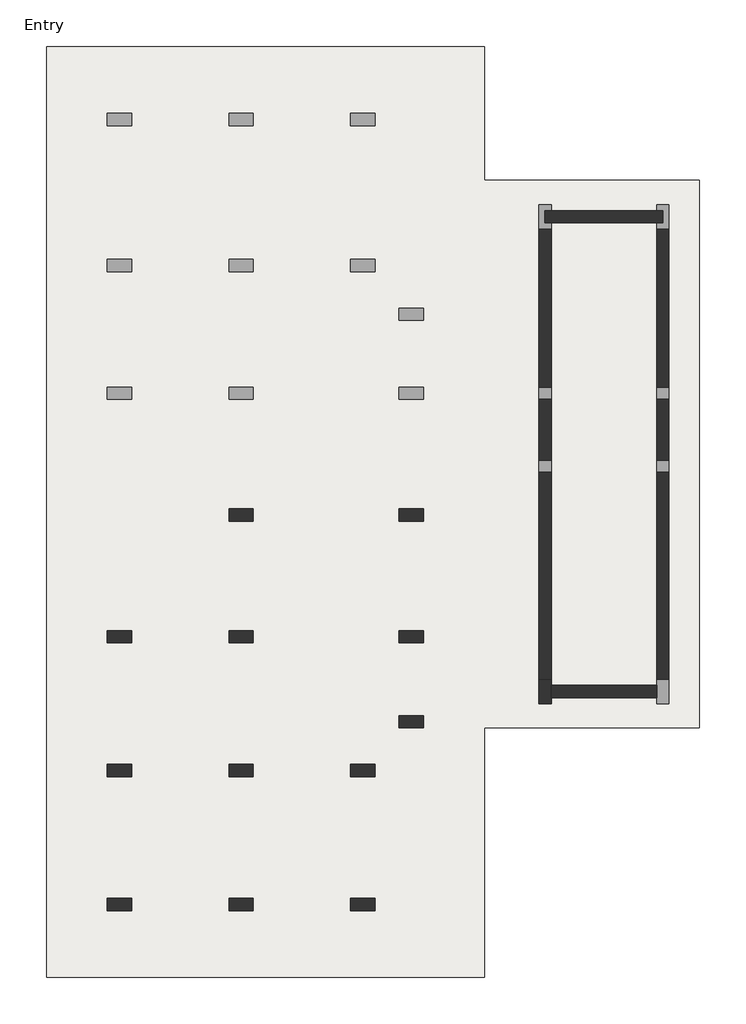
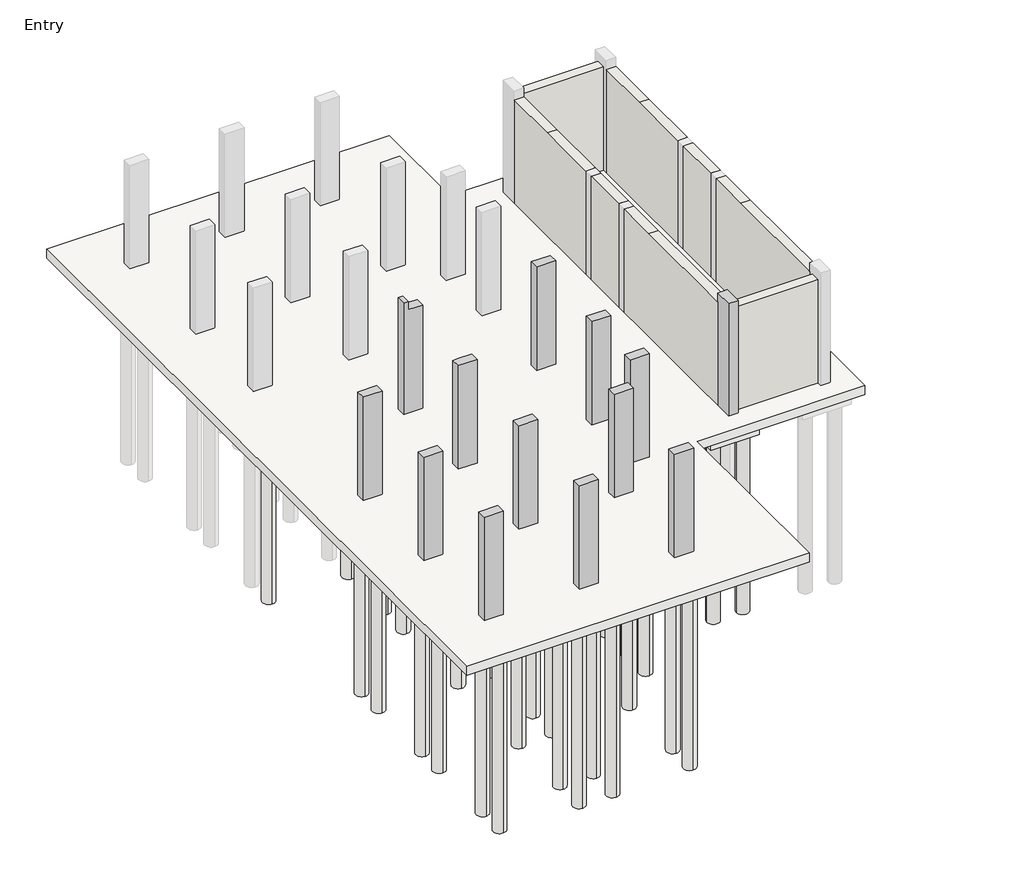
# One storey, part 1 of 2: 51 slabs, 13 columns, 8 walls.
"""IFC4 building model written with IfcOpenShell, lengths in millimetres."""

from ifc_helpers import new_model, si_unit, point, frame, frame_2d, origin, origin_with_axes, place, context, project, spatial, polyline, circle_curve, trimmed, segment, composite_curve, outline, extrude, faceted_brep, element, save

model = new_model("IFC4")

# Units and contexts
model_context = context("Model", 3, world=origin())
ifc_project = project(units=[si_unit("LENGTHUNIT", "METRE", prefix="MILLI")], contexts=[model_context])

# Site, building, storey
site = spatial("IfcSite", under=ifc_project)
building = spatial("IfcBuilding", under=site)
storey = spatial("IfcBuildingStorey", under=building, Name="Entry", Elevation=0.0)

# Columns
placement = place(None, origin())
element("IfcColumn", 1, ObjectType="Concrete-Rectangular-Column : 12 x 24", at=placement, inside=storey, context=model_context, shape_type="SweptSolid", body=[
    extrude(outline(polyline([(0.0, -25837.8572388), (0.0, -25228.2572388), (3505.2, -25228.2572388), (3505.2, -25685.4572388), (3784.6, -25685.4572388), (3784.6, -25837.8572388), (0.0, -25837.8572388)])), frame((0.0, 12810.8740068, 0.0), z_axis=(0.0, 1.0, 0.0), x_axis=(0.0, 0.0, 1.0)), (0.0, 0.0, 1.0), 304.8),
])
element("IfcColumn", 2, ObjectType="Concrete-Rectangular-Column : 12 x 24", at=placement, inside=storey, context=model_context, shape_type="SweptSolid", body=[
    extrude(outline(polyline([(-21570.6572388, 13115.6740068), (-20961.0572388, 13115.6740068), (-20961.0572388, 12810.8740068), (-21570.6572388, 12810.8740068), (-21570.6572388, 13115.6740068)])), origin_with_axes(), (0.0, 0.0, 1.0), 3505.2),
])
element("IfcColumn", 3, ObjectType="Concrete-Rectangular-Column : 12 x 24", at=placement, inside=storey, context=model_context, shape_type="SweptSolid", body=[
    extrude(outline(polyline([(-28885.8572388, 10067.6740068), (-28276.2572388, 10067.6740068), (-28276.2572388, 9762.8740068), (-28885.8572388, 9762.8740068), (-28885.8572388, 10067.6740068)])), origin_with_axes(), (0.0, 0.0, 1.0), 3505.2),
])
element("IfcColumn", 4, ObjectType="Concrete-Rectangular-Column : 12 x 24", at=placement, inside=storey, context=model_context, shape_type="Brep", body=[
    faceted_brep([(-25837.8572388, 10067.6740068, 0.0), (-25228.2572388, 10067.6740068, 0.0), (-25228.2572388, 9762.8740068, 0.0), (-25837.8572388, 9762.8740068, 0.0), (-25837.8572388, 10067.6740068, 3505.2), (-25685.4572388, 10067.6740068, 3505.2), (-25228.2572388, 10067.6740068, 3505.2), (-25228.2572388, 9762.8740068, 3505.2), (-25837.8572388, 9762.8740068, 3505.2)], [[[0, 1, 2, 3]], [[1, 0, 4, 5, 6]], [[2, 1, 6, 7]], [[3, 2, 7, 8]], [[0, 3, 8, 4]], [[6, 5, 4, 8, 7]]]),
])
element("IfcColumn", 5, ObjectType="Concrete-Rectangular-Column : 12 x 24", at=placement, inside=storey, context=model_context, shape_type="SweptSolid", body=[
    extrude(outline(polyline([(-21570.6572388, 10067.6740068), (-20961.0572388, 10067.6740068), (-20961.0572388, 9762.8740068), (-21570.6572388, 9762.8740068), (-21570.6572388, 10067.6740068)])), origin_with_axes(), (0.0, 0.0, 1.0), 3505.2),
])
element("IfcColumn", 6, ObjectType="Concrete-Rectangular-Column : 12 x 24", at=placement, inside=storey, context=model_context, shape_type="SweptSolid", body=[
    extrude(outline(polyline([(-21570.6572388, 7934.0740068), (-20961.0572388, 7934.0740068), (-20961.0572388, 7629.2740068), (-21570.6572388, 7629.2740068), (-21570.6572388, 7934.0740068)])), origin_with_axes(), (0.0, 0.0, 1.0), 3505.2),
])
element("IfcColumn", 7, ObjectType="Concrete-Rectangular-Column : 12 x 24", at=placement, inside=storey, context=model_context, shape_type="SweptSolid", body=[
    extrude(outline(polyline([(-28885.8572388, 6714.8740068), (-28276.2572388, 6714.8740068), (-28276.2572388, 6410.0740068), (-28885.8572388, 6410.0740068), (-28885.8572388, 6714.8740068)])), origin_with_axes(), (0.0, 0.0, 1.0), 3505.2),
])
element("IfcColumn", 8, ObjectType="Concrete-Rectangular-Column : 12 x 24", at=placement, inside=storey, context=model_context, shape_type="SweptSolid", body=[
    extrude(outline(polyline([(-25837.8572388, 6714.8740068), (-25228.2572388, 6714.8740068), (-25228.2572388, 6410.0740068), (-25837.8572388, 6410.0740068), (-25837.8572388, 6714.8740068)])), origin_with_axes(), (0.0, 0.0, 1.0), 3505.2),
])
element("IfcColumn", 9, ObjectType="Concrete-Rectangular-Column : 12 x 24", at=placement, inside=storey, context=model_context, shape_type="SweptSolid", body=[
    extrude(outline(polyline([(-22789.8572388, 6714.8740068), (-22180.2572388, 6714.8740068), (-22180.2572388, 6410.0740068), (-22789.8572388, 6410.0740068), (-22789.8572388, 6714.8740068)])), origin_with_axes(), (0.0, 0.0, 1.0), 3505.2),
])
element("IfcColumn", 10, ObjectType="Concrete-Rectangular-Column : 12 x 24", at=placement, inside=storey, context=model_context, shape_type="SweptSolid", body=[
    extrude(outline(polyline([(-28885.8572388, 3362.0740068), (-28276.2572388, 3362.0740068), (-28276.2572388, 3057.2740068), (-28885.8572388, 3057.2740068), (-28885.8572388, 3362.0740068)])), origin_with_axes(), (0.0, 0.0, 1.0), 3505.2),
])
element("IfcColumn", 11, ObjectType="Concrete-Rectangular-Column : 12 x 24", at=placement, inside=storey, context=model_context, shape_type="SweptSolid", body=[
    extrude(outline(polyline([(-25837.8572388, 3362.0740068), (-25228.2572388, 3362.0740068), (-25228.2572388, 3057.2740068), (-25837.8572388, 3057.2740068), (-25837.8572388, 3362.0740068)])), origin_with_axes(), (0.0, 0.0, 1.0), 3505.2),
])
element("IfcColumn", 12, ObjectType="Concrete-Rectangular-Column : 12 x 24", at=placement, inside=storey, context=model_context, shape_type="SweptSolid", body=[
    extrude(outline(polyline([(-22789.8572388, 3362.0740068), (-22180.2572388, 3362.0740068), (-22180.2572388, 3057.2740068), (-22789.8572388, 3057.2740068), (-22789.8572388, 3362.0740068)])), origin_with_axes(), (0.0, 0.0, 1.0), 3505.2),
])
element("IfcColumn", 13, ObjectType="Concrete-Rectangular-Column : 12 x 24", at=placement, inside=storey, context=model_context, shape_type="Brep", body=[
    faceted_brep([(-18065.4572388, 8238.8740068, 0.0), (-18065.4572388, 8848.4740068, 0.0), (-17760.6572388, 8848.4740068, 0.0), (-17760.6572388, 8696.0740068, 0.0), (-17760.6572388, 8391.2740068, 0.0), (-17760.6572388, 8238.8740068, 0.0), (-18065.4572388, 8238.8740068, 3810.0), (-18065.4572388, 8848.4740068, 3810.0), (-18065.4572388, 8848.4740068, 3505.2), (-17760.6572388, 8848.4740068, 3810.0), (-17760.6572388, 8848.4740068, 3505.2), (-17760.6572388, 8238.8740068, 3810.0)], [[[0, 1, 2, 3, 4, 5]], [[6, 7, 8, 1, 0]], [[7, 9, 10, 2, 1, 8]], [[9, 11, 5, 4, 3, 2, 10]], [[11, 6, 0, 5]], [[6, 11, 9, 7]]]),
])

# Slabs
element("IfcSlab", 14, ObjectType="12\" Foundation Slab", at=placement, inside=storey, context=model_context, shape_type="SweptSolid", body=[
    extrude(outline(polyline([(-19437.0572388, 24698.0740068), (-19437.0572388, 21345.2740068), (-14052.2572388, 21345.2740068), (-14052.2572388, 7629.2740068), (-19437.0572388, 7629.2740068), (-19437.0572388, 1380.8740068), (-30409.8572388, 1380.8740068), (-30409.8572388, 24698.0740068), (-19437.0572388, 24698.0740068)])), frame((0.0, 0.0, -304.8), z_axis=(0.0, 0.0, 1.0), x_axis=(1.0, 0.0, 0.0)), (0.0, 0.0, 1.0), 304.8),
])
element("IfcSlab", 15, ObjectType="Pile Cap-2 Pile : 31\"x61\"x35\"", at=placement, inside=storey, context=model_context, shape_type="SweptSolid", body=[
    extrude(outline(polyline([(-28987.4572388, 10689.9740068), (-28174.6572388, 10689.9740068), (-28174.6572388, 9140.5740068), (-28987.4572388, 9140.5740068), (-28987.4572388, 10689.9740068)])), frame((0.0, 0.0, -889.0), z_axis=(0.0, 0.0, 1.0), x_axis=(1.0, 0.0, 0.0)), (0.0, 0.0, 1.0), 584.2),
])
element("IfcSlab", 16, ObjectType="Pile Cap-2 Pile : 31\"x61\"x35\"", at=placement, inside=storey, context=model_context, shape_type="SweptSolid", body=[
    extrude(outline(polyline([(-28987.4572388, 7337.1740068), (-28174.6572388, 7337.1740068), (-28174.6572388, 5787.7740068), (-28987.4572388, 5787.7740068), (-28987.4572388, 7337.1740068)])), frame((0.0, 0.0, -889.0), z_axis=(0.0, 0.0, 1.0), x_axis=(1.0, 0.0, 0.0)), (0.0, 0.0, 1.0), 584.2),
])
element("IfcSlab", 17, ObjectType="Pile Cap-2 Pile : 31\"x61\"x35\"", at=placement, inside=storey, context=model_context, shape_type="SweptSolid", body=[
    extrude(outline(polyline([(-28987.4572388, 3984.3740068), (-28174.6572388, 3984.3740068), (-28174.6572388, 2434.9740068), (-28987.4572388, 2434.9740068), (-28987.4572388, 3984.3740068)])), frame((0.0, 0.0, -889.0), z_axis=(0.0, 0.0, 1.0), x_axis=(1.0, 0.0, 0.0)), (0.0, 0.0, 1.0), 584.2),
])
element("IfcSlab", 18, ObjectType="Pile Cap-2 Pile : 31\"x61\"x35\"", at=placement, inside=storey, context=model_context, shape_type="SweptSolid", body=[
    extrude(outline(polyline([(-22891.4572388, 3984.3740068), (-22078.6572388, 3984.3740068), (-22078.6572388, 2434.9740068), (-22891.4572388, 2434.9740068), (-22891.4572388, 3984.3740068)])), frame((0.0, 0.0, -889.0), z_axis=(0.0, 0.0, 1.0), x_axis=(1.0, 0.0, 0.0)), (0.0, 0.0, 1.0), 584.2),
])
element("IfcSlab", 19, ObjectType="Pile Cap-2 Pile : 31\"x61\"x35\"", at=placement, inside=storey, context=model_context, shape_type="SweptSolid", body=[
    extrude(outline(polyline([(-22891.4572388, 7337.1740068), (-22078.6572388, 7337.1740068), (-22078.6572388, 5787.7740068), (-22891.4572388, 5787.7740068), (-22891.4572388, 7337.1740068)])), frame((0.0, 0.0, -889.0), z_axis=(0.0, 0.0, 1.0), x_axis=(1.0, 0.0, 0.0)), (0.0, 0.0, 1.0), 584.2),
])
element("IfcSlab", 20, ObjectType="Pile Cap-2 Pile : 31\"x61\"x35\"", at=placement, inside=storey, context=model_context, shape_type="SweptSolid", body=[
    extrude(outline(polyline([(-21672.2572388, 10689.9740068), (-20859.4572388, 10689.9740068), (-20859.4572388, 9140.5740068), (-21672.2572388, 9140.5740068), (-21672.2572388, 10689.9740068)])), frame((0.0, 0.0, -889.0), z_axis=(0.0, 0.0, 1.0), x_axis=(1.0, 0.0, 0.0)), (0.0, 0.0, 1.0), 584.2),
])
element("IfcSlab", 21, ObjectType="Pile Cap-2 Pile : 31\"x61\"x35\"", at=placement, inside=storey, context=model_context, shape_type="SweptSolid", body=[
    extrude(outline(polyline([(-21672.2572388, 13737.9740068), (-20859.4572388, 13737.9740068), (-20859.4572388, 12188.5740068), (-21672.2572388, 12188.5740068), (-21672.2572388, 13737.9740068)])), frame((0.0, 0.0, -889.0), z_axis=(0.0, 0.0, 1.0), x_axis=(1.0, 0.0, 0.0)), (0.0, 0.0, 1.0), 584.2),
])
element("IfcSlab", 22, ObjectType="Pile Cap-2 Pile : 31\"x61\"x35\"", at=placement, inside=storey, context=model_context, shape_type="SweptSolid", body=[
    extrude(outline(polyline([(-17138.3572388, 8950.0740068), (-17138.3572388, 8137.2740068), (-18687.7572388, 8137.2740068), (-18687.7572388, 8950.0740068), (-17138.3572388, 8950.0740068)])), frame((0.0, 0.0, -889.0), z_axis=(0.0, 0.0, 1.0), x_axis=(1.0, 0.0, 0.0)), (0.0, 0.0, 1.0), 584.2),
])
element("IfcSlab", 23, ObjectType="Pile Cap-2 Pile : 31\"x61\"x35\"", at=placement, inside=storey, context=model_context, shape_type="SweptSolid", body=[
    extrude(outline(polyline([(-21672.2572388, 8556.3740068), (-20859.4572388, 8556.3740068), (-20859.4572388, 7006.9740068), (-21672.2572388, 7006.9740068), (-21672.2572388, 8556.3740068)])), frame((0.0, 0.0, -889.0), z_axis=(0.0, 0.0, 1.0), x_axis=(1.0, 0.0, 0.0)), (0.0, 0.0, 1.0), 584.2),
])
element("IfcSlab", 24, ObjectType="Pile Cap-4 Pile : 72\" x 72\" x35\"", at=placement, inside=storey, context=model_context, shape_type="SweptSolid", body=[
    extrude(outline(polyline([(-26447.4572388, 13877.6740068), (-24618.6572388, 13877.6740068), (-24618.6572388, 12048.8740068), (-26447.4572388, 12048.8740068), (-26447.4572388, 13877.6740068)])), frame((0.0, 0.0, -889.0), z_axis=(0.0, 0.0, 1.0), x_axis=(1.0, 0.0, 0.0)), (0.0, 0.0, 1.0), 584.2),
])
element("IfcSlab", 25, ObjectType="Pile Cap-4 Pile : 72\" x 72\" x35\"", at=placement, inside=storey, context=model_context, shape_type="SweptSolid", body=[
    extrude(outline(polyline([(-26447.4572388, 10829.6740068), (-24618.6572388, 10829.6740068), (-24618.6572388, 9000.8740068), (-26447.4572388, 9000.8740068), (-26447.4572388, 10829.6740068)])), frame((0.0, 0.0, -889.0), z_axis=(0.0, 0.0, 1.0), x_axis=(1.0, 0.0, 0.0)), (0.0, 0.0, 1.0), 584.2),
])
element("IfcSlab", 26, ObjectType="Pile Cap-4 Pile : 72\" x 72\" x35\"", at=placement, inside=storey, context=model_context, shape_type="SweptSolid", body=[
    extrude(outline(polyline([(-26447.4572388, 7476.8740068), (-24618.6572388, 7476.8740068), (-24618.6572388, 5648.0740068), (-26447.4572388, 5648.0740068), (-26447.4572388, 7476.8740068)])), frame((0.0, 0.0, -889.0), z_axis=(0.0, 0.0, 1.0), x_axis=(1.0, 0.0, 0.0)), (0.0, 0.0, 1.0), 584.2),
])
element("IfcSlab", 27, ObjectType="Pile Cap-4 Pile : 72\" x 72\" x35\"", at=placement, inside=storey, context=model_context, shape_type="SweptSolid", body=[
    extrude(outline(polyline([(-26447.4572388, 4124.0740068), (-24618.6572388, 4124.0740068), (-24618.6572388, 2295.2740068), (-26447.4572388, 2295.2740068), (-26447.4572388, 4124.0740068)])), frame((0.0, 0.0, -889.0), z_axis=(0.0, 0.0, 1.0), x_axis=(1.0, 0.0, 0.0)), (0.0, 0.0, 1.0), 584.2),
])
element("IfcSlab", 28, ObjectType="Pile-Steel Pipe : 16\" Diameter", at=placement, inside=storey, context=model_context, shape_type="SweptSolid", body=[
    extrude(outline(composite_curve([segment(trimmed(circle_curve(frame_2d((-26066.4572388, 15477.8740068)), 203.2), [point((-26066.4572388, 15274.6740068))], [point((-26066.4572388, 15681.0740068))], False, "CARTESIAN"), True, "CONTINUOUS"), segment(trimmed(circle_curve(frame_2d((-26066.4572388, 15477.8740068)), 203.2), [point((-26066.4572388, 15681.0740068))], [point((-26066.4572388, 15274.6740068))], False, "CARTESIAN"), True, "CONTINUOUS")], self_intersect=False)), frame((0.0, 0.0, -6985.0), z_axis=(0.0, 0.0, 1.0), x_axis=(1.0, 0.0, 0.0)), (0.0, 0.0, 1.0), 6096.0),
])
element("IfcSlab", 29, ObjectType="Pile-Steel Pipe : 16\" Diameter", at=placement, inside=storey, context=model_context, shape_type="SweptSolid", body=[
    extrude(outline(composite_curve([segment(trimmed(circle_curve(frame_2d((-24999.6572388, 15477.8740068)), 203.2), [point((-24999.6572388, 15274.6740068))], [point((-24999.6572388, 15681.0740068))], False, "CARTESIAN"), True, "CONTINUOUS"), segment(trimmed(circle_curve(frame_2d((-24999.6572388, 15477.8740068)), 203.2), [point((-24999.6572388, 15681.0740068))], [point((-24999.6572388, 15274.6740068))], False, "CARTESIAN"), True, "CONTINUOUS")], self_intersect=False)), frame((0.0, 0.0, -6985.0), z_axis=(0.0, 0.0, 1.0), x_axis=(1.0, 0.0, 0.0)), (0.0, 0.0, 1.0), 6096.0),
])
element("IfcSlab", 30, ObjectType="Pile-Steel Pipe : 16\" Diameter", at=placement, inside=storey, context=model_context, shape_type="SweptSolid", body=[
    extrude(outline(composite_curve([segment(trimmed(circle_curve(frame_2d((-26066.4572388, 12429.8740068)), 203.2), [point((-26066.4572388, 12226.6740068))], [point((-26066.4572388, 12633.0740068))], False, "CARTESIAN"), True, "CONTINUOUS"), segment(trimmed(circle_curve(frame_2d((-26066.4572388, 12429.8740068)), 203.2), [point((-26066.4572388, 12633.0740068))], [point((-26066.4572388, 12226.6740068))], False, "CARTESIAN"), True, "CONTINUOUS")], self_intersect=False)), frame((0.0, 0.0, -6985.0), z_axis=(0.0, 0.0, 1.0), x_axis=(1.0, 0.0, 0.0)), (0.0, 0.0, 1.0), 6096.0),
])
element("IfcSlab", 31, ObjectType="Pile-Steel Pipe : 16\" Diameter", at=placement, inside=storey, context=model_context, shape_type="SweptSolid", body=[
    extrude(outline(composite_curve([segment(trimmed(circle_curve(frame_2d((-24999.6572388, 12429.8740068)), 203.2), [point((-24999.6572388, 12226.6740068))], [point((-24999.6572388, 12633.0740068))], False, "CARTESIAN"), True, "CONTINUOUS"), segment(trimmed(circle_curve(frame_2d((-24999.6572388, 12429.8740068)), 203.2), [point((-24999.6572388, 12633.0740068))], [point((-24999.6572388, 12226.6740068))], False, "CARTESIAN"), True, "CONTINUOUS")], self_intersect=False)), frame((0.0, 0.0, -6985.0), z_axis=(0.0, 0.0, 1.0), x_axis=(1.0, 0.0, 0.0)), (0.0, 0.0, 1.0), 6096.0),
])
element("IfcSlab", 32, ObjectType="Pile-Steel Pipe : 16\" Diameter", at=placement, inside=storey, context=model_context, shape_type="SweptSolid", body=[
    extrude(outline(composite_curve([segment(trimmed(circle_curve(frame_2d((-24999.6572388, 13496.6740068)), 203.2), [point((-24999.6572388, 13293.4740068))], [point((-24999.6572388, 13699.8740068))], False, "CARTESIAN"), True, "CONTINUOUS"), segment(trimmed(circle_curve(frame_2d((-24999.6572388, 13496.6740068)), 203.2), [point((-24999.6572388, 13699.8740068))], [point((-24999.6572388, 13293.4740068))], False, "CARTESIAN"), True, "CONTINUOUS")], self_intersect=False)), frame((0.0, 0.0, -6985.0), z_axis=(0.0, 0.0, 1.0), x_axis=(1.0, 0.0, 0.0)), (0.0, 0.0, 1.0), 6096.0),
])
element("IfcSlab", 33, ObjectType="Pile-Steel Pipe : 16\" Diameter", at=placement, inside=storey, context=model_context, shape_type="SweptSolid", body=[
    extrude(outline(composite_curve([segment(trimmed(circle_curve(frame_2d((-26066.4572388, 13496.6740068)), 203.2), [point((-26066.4572388, 13293.4740068))], [point((-26066.4572388, 13699.8740068))], False, "CARTESIAN"), True, "CONTINUOUS"), segment(trimmed(circle_curve(frame_2d((-26066.4572388, 13496.6740068)), 203.2), [point((-26066.4572388, 13699.8740068))], [point((-26066.4572388, 13293.4740068))], False, "CARTESIAN"), True, "CONTINUOUS")], self_intersect=False)), frame((0.0, 0.0, -6985.0), z_axis=(0.0, 0.0, 1.0), x_axis=(1.0, 0.0, 0.0)), (0.0, 0.0, 1.0), 6096.0),
])
element("IfcSlab", 34, ObjectType="Pile-Steel Pipe : 16\" Diameter", at=placement, inside=storey, context=model_context, shape_type="SweptSolid", body=[
    extrude(outline(composite_curve([segment(trimmed(circle_curve(frame_2d((-26066.4572388, 9381.8740068)), 203.2), [point((-26066.4572388, 9178.6740068))], [point((-26066.4572388, 9585.0740068))], False, "CARTESIAN"), True, "CONTINUOUS"), segment(trimmed(circle_curve(frame_2d((-26066.4572388, 9381.8740068)), 203.2), [point((-26066.4572388, 9585.0740068))], [point((-26066.4572388, 9178.6740068))], False, "CARTESIAN"), True, "CONTINUOUS")], self_intersect=False)), frame((0.0, 0.0, -6985.0), z_axis=(0.0, 0.0, 1.0), x_axis=(1.0, 0.0, 0.0)), (0.0, 0.0, 1.0), 6096.0),
])
element("IfcSlab", 35, ObjectType="Pile-Steel Pipe : 16\" Diameter", at=placement, inside=storey, context=model_context, shape_type="SweptSolid", body=[
    extrude(outline(composite_curve([segment(trimmed(circle_curve(frame_2d((-24999.6572388, 9381.8740068)), 203.2), [point((-24999.6572388, 9178.6740068))], [point((-24999.6572388, 9585.0740068))], False, "CARTESIAN"), True, "CONTINUOUS"), segment(trimmed(circle_curve(frame_2d((-24999.6572388, 9381.8740068)), 203.2), [point((-24999.6572388, 9585.0740068))], [point((-24999.6572388, 9178.6740068))], False, "CARTESIAN"), True, "CONTINUOUS")], self_intersect=False)), frame((0.0, 0.0, -6985.0), z_axis=(0.0, 0.0, 1.0), x_axis=(1.0, 0.0, 0.0)), (0.0, 0.0, 1.0), 6096.0),
])
element("IfcSlab", 36, ObjectType="Pile-Steel Pipe : 16\" Diameter", at=placement, inside=storey, context=model_context, shape_type="SweptSolid", body=[
    extrude(outline(composite_curve([segment(trimmed(circle_curve(frame_2d((-24999.6572388, 10448.6740068)), 203.2), [point((-24999.6572388, 10245.4740068))], [point((-24999.6572388, 10651.8740068))], False, "CARTESIAN"), True, "CONTINUOUS"), segment(trimmed(circle_curve(frame_2d((-24999.6572388, 10448.6740068)), 203.2), [point((-24999.6572388, 10651.8740068))], [point((-24999.6572388, 10245.4740068))], False, "CARTESIAN"), True, "CONTINUOUS")], self_intersect=False)), frame((0.0, 0.0, -6985.0), z_axis=(0.0, 0.0, 1.0), x_axis=(1.0, 0.0, 0.0)), (0.0, 0.0, 1.0), 6096.0),
])
element("IfcSlab", 37, ObjectType="Pile-Steel Pipe : 16\" Diameter", at=placement, inside=storey, context=model_context, shape_type="SweptSolid", body=[
    extrude(outline(composite_curve([segment(trimmed(circle_curve(frame_2d((-26066.4572388, 10448.6740068)), 203.2), [point((-26066.4572388, 10245.4740068))], [point((-26066.4572388, 10651.8740068))], False, "CARTESIAN"), True, "CONTINUOUS"), segment(trimmed(circle_curve(frame_2d((-26066.4572388, 10448.6740068)), 203.2), [point((-26066.4572388, 10651.8740068))], [point((-26066.4572388, 10245.4740068))], False, "CARTESIAN"), True, "CONTINUOUS")], self_intersect=False)), frame((0.0, 0.0, -6985.0), z_axis=(0.0, 0.0, 1.0), x_axis=(1.0, 0.0, 0.0)), (0.0, 0.0, 1.0), 6096.0),
])
element("IfcSlab", 38, ObjectType="Pile-Steel Pipe : 16\" Diameter", at=placement, inside=storey, context=model_context, shape_type="SweptSolid", body=[
    extrude(outline(composite_curve([segment(trimmed(circle_curve(frame_2d((-26066.4572388, 6029.0740068)), 203.2), [point((-26066.4572388, 5825.8740068))], [point((-26066.4572388, 6232.2740068))], False, "CARTESIAN"), True, "CONTINUOUS"), segment(trimmed(circle_curve(frame_2d((-26066.4572388, 6029.0740068)), 203.2), [point((-26066.4572388, 6232.2740068))], [point((-26066.4572388, 5825.8740068))], False, "CARTESIAN"), True, "CONTINUOUS")], self_intersect=False)), frame((0.0, 0.0, -6985.0), z_axis=(0.0, 0.0, 1.0), x_axis=(1.0, 0.0, 0.0)), (0.0, 0.0, 1.0), 6096.0),
])
element("IfcSlab", 39, ObjectType="Pile-Steel Pipe : 16\" Diameter", at=placement, inside=storey, context=model_context, shape_type="SweptSolid", body=[
    extrude(outline(composite_curve([segment(trimmed(circle_curve(frame_2d((-24999.6572388, 6029.0740068)), 203.2), [point((-24999.6572388, 5825.8740068))], [point((-24999.6572388, 6232.2740068))], False, "CARTESIAN"), True, "CONTINUOUS"), segment(trimmed(circle_curve(frame_2d((-24999.6572388, 6029.0740068)), 203.2), [point((-24999.6572388, 6232.2740068))], [point((-24999.6572388, 5825.8740068))], False, "CARTESIAN"), True, "CONTINUOUS")], self_intersect=False)), frame((0.0, 0.0, -6985.0), z_axis=(0.0, 0.0, 1.0), x_axis=(1.0, 0.0, 0.0)), (0.0, 0.0, 1.0), 6096.0),
])
element("IfcSlab", 40, ObjectType="Pile-Steel Pipe : 16\" Diameter", at=placement, inside=storey, context=model_context, shape_type="SweptSolid", body=[
    extrude(outline(composite_curve([segment(trimmed(circle_curve(frame_2d((-24999.6572388, 7095.8740068)), 203.2), [point((-24999.6572388, 6892.6740068))], [point((-24999.6572388, 7299.0740068))], False, "CARTESIAN"), True, "CONTINUOUS"), segment(trimmed(circle_curve(frame_2d((-24999.6572388, 7095.8740068)), 203.2), [point((-24999.6572388, 7299.0740068))], [point((-24999.6572388, 6892.6740068))], False, "CARTESIAN"), True, "CONTINUOUS")], self_intersect=False)), frame((0.0, 0.0, -6985.0), z_axis=(0.0, 0.0, 1.0), x_axis=(1.0, 0.0, 0.0)), (0.0, 0.0, 1.0), 6096.0),
])
element("IfcSlab", 41, ObjectType="Pile-Steel Pipe : 16\" Diameter", at=placement, inside=storey, context=model_context, shape_type="SweptSolid", body=[
    extrude(outline(composite_curve([segment(trimmed(circle_curve(frame_2d((-26066.4572388, 7095.8740068)), 203.2), [point((-26066.4572388, 6892.6740068))], [point((-26066.4572388, 7299.0740068))], False, "CARTESIAN"), True, "CONTINUOUS"), segment(trimmed(circle_curve(frame_2d((-26066.4572388, 7095.8740068)), 203.2), [point((-26066.4572388, 7299.0740068))], [point((-26066.4572388, 6892.6740068))], False, "CARTESIAN"), True, "CONTINUOUS")], self_intersect=False)), frame((0.0, 0.0, -6985.0), z_axis=(0.0, 0.0, 1.0), x_axis=(1.0, 0.0, 0.0)), (0.0, 0.0, 1.0), 6096.0),
])
element("IfcSlab", 42, ObjectType="Pile-Steel Pipe : 16\" Diameter", at=placement, inside=storey, context=model_context, shape_type="SweptSolid", body=[
    extrude(outline(composite_curve([segment(trimmed(circle_curve(frame_2d((-26066.4572388, 2676.2740068)), 203.2), [point((-26066.4572388, 2473.0740068))], [point((-26066.4572388, 2879.4740068))], False, "CARTESIAN"), True, "CONTINUOUS"), segment(trimmed(circle_curve(frame_2d((-26066.4572388, 2676.2740068)), 203.2), [point((-26066.4572388, 2879.4740068))], [point((-26066.4572388, 2473.0740068))], False, "CARTESIAN"), True, "CONTINUOUS")], self_intersect=False)), frame((0.0, 0.0, -6985.0), z_axis=(0.0, 0.0, 1.0), x_axis=(1.0, 0.0, 0.0)), (0.0, 0.0, 1.0), 6096.0),
])
element("IfcSlab", 43, ObjectType="Pile-Steel Pipe : 16\" Diameter", at=placement, inside=storey, context=model_context, shape_type="SweptSolid", body=[
    extrude(outline(composite_curve([segment(trimmed(circle_curve(frame_2d((-24999.6572388, 2676.2740068)), 203.2), [point((-24999.6572388, 2473.0740068))], [point((-24999.6572388, 2879.4740068))], False, "CARTESIAN"), True, "CONTINUOUS"), segment(trimmed(circle_curve(frame_2d((-24999.6572388, 2676.2740068)), 203.2), [point((-24999.6572388, 2879.4740068))], [point((-24999.6572388, 2473.0740068))], False, "CARTESIAN"), True, "CONTINUOUS")], self_intersect=False)), frame((0.0, 0.0, -6985.0), z_axis=(0.0, 0.0, 1.0), x_axis=(1.0, 0.0, 0.0)), (0.0, 0.0, 1.0), 6096.0),
])
element("IfcSlab", 44, ObjectType="Pile-Steel Pipe : 16\" Diameter", at=placement, inside=storey, context=model_context, shape_type="SweptSolid", body=[
    extrude(outline(composite_curve([segment(trimmed(circle_curve(frame_2d((-24999.6572388, 3743.0740068)), 203.2), [point((-24999.6572388, 3539.8740068))], [point((-24999.6572388, 3946.2740068))], False, "CARTESIAN"), True, "CONTINUOUS"), segment(trimmed(circle_curve(frame_2d((-24999.6572388, 3743.0740068)), 203.2), [point((-24999.6572388, 3946.2740068))], [point((-24999.6572388, 3539.8740068))], False, "CARTESIAN"), True, "CONTINUOUS")], self_intersect=False)), frame((0.0, 0.0, -6985.0), z_axis=(0.0, 0.0, 1.0), x_axis=(1.0, 0.0, 0.0)), (0.0, 0.0, 1.0), 6096.0),
])
element("IfcSlab", 45, ObjectType="Pile-Steel Pipe : 16\" Diameter", at=placement, inside=storey, context=model_context, shape_type="SweptSolid", body=[
    extrude(outline(composite_curve([segment(trimmed(circle_curve(frame_2d((-26066.4572388, 3743.0740068)), 203.2), [point((-26066.4572388, 3539.8740068))], [point((-26066.4572388, 3946.2740068))], False, "CARTESIAN"), True, "CONTINUOUS"), segment(trimmed(circle_curve(frame_2d((-26066.4572388, 3743.0740068)), 203.2), [point((-26066.4572388, 3946.2740068))], [point((-26066.4572388, 3539.8740068))], False, "CARTESIAN"), True, "CONTINUOUS")], self_intersect=False)), frame((0.0, 0.0, -6985.0), z_axis=(0.0, 0.0, 1.0), x_axis=(1.0, 0.0, 0.0)), (0.0, 0.0, 1.0), 6096.0),
])
element("IfcSlab", 46, ObjectType="Pile-Steel Pipe : 16\" Diameter", at=placement, inside=storey, context=model_context, shape_type="SweptSolid", body=[
    extrude(outline(composite_curve([segment(trimmed(circle_curve(frame_2d((-28581.0572388, 15541.3740068)), 203.2), [point((-28581.0572388, 15338.1740068))], [point((-28581.0572388, 15744.5740068))], False, "CARTESIAN"), True, "CONTINUOUS"), segment(trimmed(circle_curve(frame_2d((-28581.0572388, 15541.3740068)), 203.2), [point((-28581.0572388, 15744.5740068))], [point((-28581.0572388, 15338.1740068))], False, "CARTESIAN"), True, "CONTINUOUS")], self_intersect=False)), frame((0.0, 0.0, -6985.0), z_axis=(0.0, 0.0, 1.0), x_axis=(1.0, 0.0, 0.0)), (0.0, 0.0, 1.0), 6096.0),
])
element("IfcSlab", 47, ObjectType="Pile-Steel Pipe : 16\" Diameter", at=placement, inside=storey, context=model_context, shape_type="SweptSolid", body=[
    extrude(outline(composite_curve([segment(trimmed(circle_curve(frame_2d((-28581.0572388, 9445.3740068)), 203.2), [point((-28581.0572388, 9242.1740068))], [point((-28581.0572388, 9648.5740068))], False, "CARTESIAN"), True, "CONTINUOUS"), segment(trimmed(circle_curve(frame_2d((-28581.0572388, 9445.3740068)), 203.2), [point((-28581.0572388, 9648.5740068))], [point((-28581.0572388, 9242.1740068))], False, "CARTESIAN"), True, "CONTINUOUS")], self_intersect=False)), frame((0.0, 0.0, -6985.0), z_axis=(0.0, 0.0, 1.0), x_axis=(1.0, 0.0, 0.0)), (0.0, 0.0, 1.0), 6096.0),
])
element("IfcSlab", 48, ObjectType="Pile-Steel Pipe : 16\" Diameter", at=placement, inside=storey, context=model_context, shape_type="SweptSolid", body=[
    extrude(outline(composite_curve([segment(trimmed(circle_curve(frame_2d((-28581.0572388, 10385.1740068)), 203.2), [point((-28581.0572388, 10181.9740068))], [point((-28581.0572388, 10588.3740068))], False, "CARTESIAN"), True, "CONTINUOUS"), segment(trimmed(circle_curve(frame_2d((-28581.0572388, 10385.1740068)), 203.2), [point((-28581.0572388, 10588.3740068))], [point((-28581.0572388, 10181.9740068))], False, "CARTESIAN"), True, "CONTINUOUS")], self_intersect=False)), frame((0.0, 0.0, -6985.0), z_axis=(0.0, 0.0, 1.0), x_axis=(1.0, 0.0, 0.0)), (0.0, 0.0, 1.0), 6096.0),
])
element("IfcSlab", 49, ObjectType="Pile-Steel Pipe : 16\" Diameter", at=placement, inside=storey, context=model_context, shape_type="SweptSolid", body=[
    extrude(outline(composite_curve([segment(trimmed(circle_curve(frame_2d((-28581.0572388, 6092.5740068)), 203.2), [point((-28581.0572388, 5889.3740068))], [point((-28581.0572388, 6295.7740068))], False, "CARTESIAN"), True, "CONTINUOUS"), segment(trimmed(circle_curve(frame_2d((-28581.0572388, 6092.5740068)), 203.2), [point((-28581.0572388, 6295.7740068))], [point((-28581.0572388, 5889.3740068))], False, "CARTESIAN"), True, "CONTINUOUS")], self_intersect=False)), frame((0.0, 0.0, -6985.0), z_axis=(0.0, 0.0, 1.0), x_axis=(1.0, 0.0, 0.0)), (0.0, 0.0, 1.0), 6096.0),
])
element("IfcSlab", 50, ObjectType="Pile-Steel Pipe : 16\" Diameter", at=placement, inside=storey, context=model_context, shape_type="SweptSolid", body=[
    extrude(outline(composite_curve([segment(trimmed(circle_curve(frame_2d((-28581.0572388, 7032.3740068)), 203.2), [point((-28581.0572388, 6829.1740068))], [point((-28581.0572388, 7235.5740068))], False, "CARTESIAN"), True, "CONTINUOUS"), segment(trimmed(circle_curve(frame_2d((-28581.0572388, 7032.3740068)), 203.2), [point((-28581.0572388, 7235.5740068))], [point((-28581.0572388, 6829.1740068))], False, "CARTESIAN"), True, "CONTINUOUS")], self_intersect=False)), frame((0.0, 0.0, -6985.0), z_axis=(0.0, 0.0, 1.0), x_axis=(1.0, 0.0, 0.0)), (0.0, 0.0, 1.0), 6096.0),
])
element("IfcSlab", 51, ObjectType="Pile-Steel Pipe : 16\" Diameter", at=placement, inside=storey, context=model_context, shape_type="SweptSolid", body=[
    extrude(outline(composite_curve([segment(trimmed(circle_curve(frame_2d((-28581.0572388, 2739.7740068)), 203.2), [point((-28581.0572388, 2536.5740068))], [point((-28581.0572388, 2942.9740068))], False, "CARTESIAN"), True, "CONTINUOUS"), segment(trimmed(circle_curve(frame_2d((-28581.0572388, 2739.7740068)), 203.2), [point((-28581.0572388, 2942.9740068))], [point((-28581.0572388, 2536.5740068))], False, "CARTESIAN"), True, "CONTINUOUS")], self_intersect=False)), frame((0.0, 0.0, -6985.0), z_axis=(0.0, 0.0, 1.0), x_axis=(1.0, 0.0, 0.0)), (0.0, 0.0, 1.0), 6096.0),
])
element("IfcSlab", 52, ObjectType="Pile-Steel Pipe : 16\" Diameter", at=placement, inside=storey, context=model_context, shape_type="SweptSolid", body=[
    extrude(outline(composite_curve([segment(trimmed(circle_curve(frame_2d((-28581.0572388, 3679.5740068)), 203.2), [point((-28581.0572388, 3476.3740068))], [point((-28581.0572388, 3882.7740068))], False, "CARTESIAN"), True, "CONTINUOUS"), segment(trimmed(circle_curve(frame_2d((-28581.0572388, 3679.5740068)), 203.2), [point((-28581.0572388, 3882.7740068))], [point((-28581.0572388, 3476.3740068))], False, "CARTESIAN"), True, "CONTINUOUS")], self_intersect=False)), frame((0.0, 0.0, -6985.0), z_axis=(0.0, 0.0, 1.0), x_axis=(1.0, 0.0, 0.0)), (0.0, 0.0, 1.0), 6096.0),
])
element("IfcSlab", 53, ObjectType="Pile-Steel Pipe : 16\" Diameter", at=placement, inside=storey, context=model_context, shape_type="SweptSolid", body=[
    extrude(outline(composite_curve([segment(trimmed(circle_curve(frame_2d((-22485.0572388, 2739.7740068)), 203.2), [point((-22485.0572388, 2536.5740068))], [point((-22485.0572388, 2942.9740068))], False, "CARTESIAN"), True, "CONTINUOUS"), segment(trimmed(circle_curve(frame_2d((-22485.0572388, 2739.7740068)), 203.2), [point((-22485.0572388, 2942.9740068))], [point((-22485.0572388, 2536.5740068))], False, "CARTESIAN"), True, "CONTINUOUS")], self_intersect=False)), frame((0.0, 0.0, -6985.0), z_axis=(0.0, 0.0, 1.0), x_axis=(1.0, 0.0, 0.0)), (0.0, 0.0, 1.0), 6096.0),
])
element("IfcSlab", 54, ObjectType="Pile-Steel Pipe : 16\" Diameter", at=placement, inside=storey, context=model_context, shape_type="SweptSolid", body=[
    extrude(outline(composite_curve([segment(trimmed(circle_curve(frame_2d((-22485.0572388, 3679.5740068)), 203.2), [point((-22485.0572388, 3476.3740068))], [point((-22485.0572388, 3882.7740068))], False, "CARTESIAN"), True, "CONTINUOUS"), segment(trimmed(circle_curve(frame_2d((-22485.0572388, 3679.5740068)), 203.2), [point((-22485.0572388, 3882.7740068))], [point((-22485.0572388, 3476.3740068))], False, "CARTESIAN"), True, "CONTINUOUS")], self_intersect=False)), frame((0.0, 0.0, -6985.0), z_axis=(0.0, 0.0, 1.0), x_axis=(1.0, 0.0, 0.0)), (0.0, 0.0, 1.0), 6096.0),
])
element("IfcSlab", 55, ObjectType="Pile-Steel Pipe : 16\" Diameter", at=placement, inside=storey, context=model_context, shape_type="SweptSolid", body=[
    extrude(outline(composite_curve([segment(trimmed(circle_curve(frame_2d((-22485.0572388, 6092.5740068)), 203.2), [point((-22485.0572388, 5889.3740068))], [point((-22485.0572388, 6295.7740068))], False, "CARTESIAN"), True, "CONTINUOUS"), segment(trimmed(circle_curve(frame_2d((-22485.0572388, 6092.5740068)), 203.2), [point((-22485.0572388, 6295.7740068))], [point((-22485.0572388, 5889.3740068))], False, "CARTESIAN"), True, "CONTINUOUS")], self_intersect=False)), frame((0.0, 0.0, -6985.0), z_axis=(0.0, 0.0, 1.0), x_axis=(1.0, 0.0, 0.0)), (0.0, 0.0, 1.0), 6096.0),
])
element("IfcSlab", 56, ObjectType="Pile-Steel Pipe : 16\" Diameter", at=placement, inside=storey, context=model_context, shape_type="SweptSolid", body=[
    extrude(outline(composite_curve([segment(trimmed(circle_curve(frame_2d((-22485.0572388, 7032.3740068)), 203.2), [point((-22485.0572388, 6829.1740068))], [point((-22485.0572388, 7235.5740068))], False, "CARTESIAN"), True, "CONTINUOUS"), segment(trimmed(circle_curve(frame_2d((-22485.0572388, 7032.3740068)), 203.2), [point((-22485.0572388, 7235.5740068))], [point((-22485.0572388, 6829.1740068))], False, "CARTESIAN"), True, "CONTINUOUS")], self_intersect=False)), frame((0.0, 0.0, -6985.0), z_axis=(0.0, 0.0, 1.0), x_axis=(1.0, 0.0, 0.0)), (0.0, 0.0, 1.0), 6096.0),
])
element("IfcSlab", 57, ObjectType="Pile-Steel Pipe : 16\" Diameter", at=placement, inside=storey, context=model_context, shape_type="SweptSolid", body=[
    extrude(outline(composite_curve([segment(trimmed(circle_curve(frame_2d((-21265.8572388, 9445.3740068)), 203.2), [point((-21265.8572388, 9242.1740068))], [point((-21265.8572388, 9648.5740068))], False, "CARTESIAN"), True, "CONTINUOUS"), segment(trimmed(circle_curve(frame_2d((-21265.8572388, 9445.3740068)), 203.2), [point((-21265.8572388, 9648.5740068))], [point((-21265.8572388, 9242.1740068))], False, "CARTESIAN"), True, "CONTINUOUS")], self_intersect=False)), frame((0.0, 0.0, -6985.0), z_axis=(0.0, 0.0, 1.0), x_axis=(1.0, 0.0, 0.0)), (0.0, 0.0, 1.0), 6096.0),
])
element("IfcSlab", 58, ObjectType="Pile-Steel Pipe : 16\" Diameter", at=placement, inside=storey, context=model_context, shape_type="SweptSolid", body=[
    extrude(outline(composite_curve([segment(trimmed(circle_curve(frame_2d((-21265.8572388, 10385.1740068)), 203.2), [point((-21265.8572388, 10181.9740068))], [point((-21265.8572388, 10588.3740068))], False, "CARTESIAN"), True, "CONTINUOUS"), segment(trimmed(circle_curve(frame_2d((-21265.8572388, 10385.1740068)), 203.2), [point((-21265.8572388, 10588.3740068))], [point((-21265.8572388, 10181.9740068))], False, "CARTESIAN"), True, "CONTINUOUS")], self_intersect=False)), frame((0.0, 0.0, -6985.0), z_axis=(0.0, 0.0, 1.0), x_axis=(1.0, 0.0, 0.0)), (0.0, 0.0, 1.0), 6096.0),
])
element("IfcSlab", 59, ObjectType="Pile-Steel Pipe : 16\" Diameter", at=placement, inside=storey, context=model_context, shape_type="SweptSolid", body=[
    extrude(outline(composite_curve([segment(trimmed(circle_curve(frame_2d((-21265.8572388, 12493.3740068)), 203.2), [point((-21265.8572388, 12290.1740068))], [point((-21265.8572388, 12696.5740068))], False, "CARTESIAN"), True, "CONTINUOUS"), segment(trimmed(circle_curve(frame_2d((-21265.8572388, 12493.3740068)), 203.2), [point((-21265.8572388, 12696.5740068))], [point((-21265.8572388, 12290.1740068))], False, "CARTESIAN"), True, "CONTINUOUS")], self_intersect=False)), frame((0.0, 0.0, -6985.0), z_axis=(0.0, 0.0, 1.0), x_axis=(1.0, 0.0, 0.0)), (0.0, 0.0, 1.0), 6096.0),
])
element("IfcSlab", 60, ObjectType="Pile-Steel Pipe : 16\" Diameter", at=placement, inside=storey, context=model_context, shape_type="SweptSolid", body=[
    extrude(outline(composite_curve([segment(trimmed(circle_curve(frame_2d((-21265.8572388, 13433.1740068)), 203.2), [point((-21265.8572388, 13229.9740068))], [point((-21265.8572388, 13636.3740068))], False, "CARTESIAN"), True, "CONTINUOUS"), segment(trimmed(circle_curve(frame_2d((-21265.8572388, 13433.1740068)), 203.2), [point((-21265.8572388, 13636.3740068))], [point((-21265.8572388, 13229.9740068))], False, "CARTESIAN"), True, "CONTINUOUS")], self_intersect=False)), frame((0.0, 0.0, -6985.0), z_axis=(0.0, 0.0, 1.0), x_axis=(1.0, 0.0, 0.0)), (0.0, 0.0, 1.0), 6096.0),
])
element("IfcSlab", 61, ObjectType="Pile-Steel Pipe : 16\" Diameter", at=placement, inside=storey, context=model_context, shape_type="SweptSolid", body=[
    extrude(outline(composite_curve([segment(trimmed(circle_curve(frame_2d((-18382.9572388, 8543.6740068)), 203.2), [point((-18586.1572388, 8543.6740068))], [point((-18179.7572388, 8543.6740068))], False, "CARTESIAN"), True, "CONTINUOUS"), segment(trimmed(circle_curve(frame_2d((-18382.9572388, 8543.6740068)), 203.2), [point((-18179.7572388, 8543.6740068))], [point((-18586.1572388, 8543.6740068))], False, "CARTESIAN"), True, "CONTINUOUS")], self_intersect=False)), frame((0.0, 0.0, -6985.0), z_axis=(0.0, 0.0, 1.0), x_axis=(1.0, 0.0, 0.0)), (0.0, 0.0, 1.0), 6096.0),
])
element("IfcSlab", 62, ObjectType="Pile-Steel Pipe : 16\" Diameter", at=placement, inside=storey, context=model_context, shape_type="SweptSolid", body=[
    extrude(outline(composite_curve([segment(trimmed(circle_curve(frame_2d((-17443.1572388, 8543.6740068)), 203.2), [point((-17646.3572388, 8543.6740068))], [point((-17239.9572388, 8543.6740068))], False, "CARTESIAN"), True, "CONTINUOUS"), segment(trimmed(circle_curve(frame_2d((-17443.1572388, 8543.6740068)), 203.2), [point((-17239.9572388, 8543.6740068))], [point((-17646.3572388, 8543.6740068))], False, "CARTESIAN"), True, "CONTINUOUS")], self_intersect=False)), frame((0.0, 0.0, -6985.0), z_axis=(0.0, 0.0, 1.0), x_axis=(1.0, 0.0, 0.0)), (0.0, 0.0, 1.0), 6096.0),
])
element("IfcSlab", 63, ObjectType="Pile-Steel Pipe : 16\" Diameter", at=placement, inside=storey, context=model_context, shape_type="SweptSolid", body=[
    extrude(outline(composite_curve([segment(trimmed(circle_curve(frame_2d((-21265.8572388, 7311.7740068)), 203.2), [point((-21265.8572388, 7108.5740068))], [point((-21265.8572388, 7514.9740068))], False, "CARTESIAN"), True, "CONTINUOUS"), segment(trimmed(circle_curve(frame_2d((-21265.8572388, 7311.7740068)), 203.2), [point((-21265.8572388, 7514.9740068))], [point((-21265.8572388, 7108.5740068))], False, "CARTESIAN"), True, "CONTINUOUS")], self_intersect=False)), frame((0.0, 0.0, -6985.0), z_axis=(0.0, 0.0, 1.0), x_axis=(1.0, 0.0, 0.0)), (0.0, 0.0, 1.0), 6096.0),
])
element("IfcSlab", 64, ObjectType="Pile-Steel Pipe : 16\" Diameter", at=placement, inside=storey, context=model_context, shape_type="SweptSolid", body=[
    extrude(outline(composite_curve([segment(trimmed(circle_curve(frame_2d((-21265.8572388, 8251.5740068)), 203.2), [point((-21265.8572388, 8048.3740068))], [point((-21265.8572388, 8454.7740068))], False, "CARTESIAN"), True, "CONTINUOUS"), segment(trimmed(circle_curve(frame_2d((-21265.8572388, 8251.5740068)), 203.2), [point((-21265.8572388, 8454.7740068))], [point((-21265.8572388, 8048.3740068))], False, "CARTESIAN"), True, "CONTINUOUS")], self_intersect=False)), frame((0.0, 0.0, -6985.0), z_axis=(0.0, 0.0, 1.0), x_axis=(1.0, 0.0, 0.0)), (0.0, 0.0, 1.0), 6096.0),
])

# Walls
element("IfcWall", 65, ObjectType="Core-Shaft - 12'' Concrete", at=placement, inside=storey, context=model_context, shape_type="Brep", body=[
    faceted_brep([(-14966.6572388, 20583.2740068, 0.0), (-15119.0572388, 20583.2740068, 0.0), (-17760.6572388, 20583.2740068, 0.0), (-17913.0572388, 20583.2740068, 0.0), (-17913.0572388, 20583.2740068, 3505.2), (-17760.6572388, 20583.2740068, 3505.2), (-15119.0572388, 20583.2740068, 3505.2), (-14966.6572388, 20583.2740068, 3505.2), (-14966.6572388, 20278.4740068, 0.0), (-14966.6572388, 20278.4740068, 3505.2), (-15119.0572388, 20278.4740068, 3505.2), (-17760.6572388, 20278.4740068, 3505.2), (-17913.0572388, 20278.4740068, 3505.2), (-17913.0572388, 20278.4740068, 0.0), (-17760.6572388, 20278.4740068, 0.0), (-15119.0572388, 20278.4740068, 0.0)], [[[0, 1, 2, 3, 4, 5, 6, 7]], [[8, 9, 10, 11, 12, 13, 14, 15]], [[3, 2, 1, 0, 8, 15, 14, 13]], [[4, 3, 13, 12]], [[7, 6, 5, 4, 12, 11, 10, 9]], [[0, 7, 9, 8]]]),
])
element("IfcWall", 66, ObjectType="Core-Shaft - 12'' Concrete", at=placement, inside=storey, context=model_context, shape_type="SweptSolid", body=[
    extrude(outline(polyline([(20126.0740068, 0.0), (16163.6740068, 0.0), (16163.6740068, 3505.2), (18297.2740068, 3505.2), (20126.0740068, 3505.2), (20126.0740068, 0.0)])), frame((-15119.0572388, 0.0, 0.0), z_axis=(1.0, 0.0, 0.0), x_axis=(0.0, 1.0, 0.0)), (0.0, 0.0, 1.0), 304.8),
])
element("IfcWall", 67, ObjectType="Core-Shaft - 12'' Concrete", at=placement, inside=storey, context=model_context, shape_type="SweptSolid", body=[
    extrude(outline(polyline([(-15119.0572388, 14334.8740068), (-15119.0572388, 15858.8740068), (-14814.2572388, 15858.8740068), (-14814.2572388, 14334.8740068), (-15119.0572388, 14334.8740068)])), origin_with_axes(), (0.0, 0.0, 1.0), 3505.2),
])
element("IfcWall", 68, ObjectType="Core-Shaft - 12'' Concrete", at=placement, inside=storey, context=model_context, shape_type="SweptSolid", body=[
    extrude(outline(polyline([(14030.0740068, 0.0), (8848.4740068, 0.0), (8848.4740068, 3505.2), (12658.4740068, 3505.2), (14030.0740068, 3505.2), (14030.0740068, 0.0)])), frame((-15119.0572388, 0.0, 0.0), z_axis=(1.0, 0.0, 0.0), x_axis=(0.0, 1.0, 0.0)), (0.0, 0.0, 1.0), 304.8),
])
element("IfcWall", 69, ObjectType="Core-Shaft - 12'' Concrete", at=placement, inside=storey, context=model_context, shape_type="SweptSolid", body=[
    extrude(outline(polyline([(-17760.6572388, 8696.0740068), (-15119.0572388, 8696.0740068), (-15119.0572388, 8391.2740068), (-17760.6572388, 8391.2740068), (-17760.6572388, 8696.0740068)])), origin_with_axes(), (0.0, 0.0, 1.0), 3505.2),
])
element("IfcWall", 70, ObjectType="Core-Shaft - 12'' Concrete", at=placement, inside=storey, context=model_context, shape_type="SweptSolid", body=[
    extrude(outline(polyline([(8848.4740068, 0.0), (8848.4740068, 3505.2), (12658.4740068, 3505.2), (14030.0740068, 3505.2), (14030.0740068, 0.0), (8848.4740068, 0.0)])), frame((-18065.4572388, 0.0, 0.0), z_axis=(1.0, 0.0, 0.0), x_axis=(0.0, 1.0, 0.0)), (0.0, 0.0, 1.0), 304.8),
])
element("IfcWall", 71, ObjectType="Core-Shaft - 12'' Concrete", at=placement, inside=storey, context=model_context, shape_type="SweptSolid", body=[
    extrude(outline(polyline([(-17760.6572388, 15858.8740068), (-17760.6572388, 14334.8740068), (-18065.4572388, 14334.8740068), (-18065.4572388, 15858.8740068), (-17760.6572388, 15858.8740068)])), origin_with_axes(), (0.0, 0.0, 1.0), 3505.2),
])
element("IfcWall", 72, ObjectType="Core-Shaft - 12'' Concrete", at=placement, inside=storey, context=model_context, shape_type="SweptSolid", body=[
    extrude(outline(polyline([(16163.6740068, 0.0), (16163.6740068, 3505.2), (18297.2740068, 3505.2), (20126.0740068, 3505.2), (20126.0740068, 0.0), (16163.6740068, 0.0)])), frame((-18065.4572388, 0.0, 0.0), z_axis=(1.0, 0.0, 0.0), x_axis=(0.0, 1.0, 0.0)), (0.0, 0.0, 1.0), 304.8),
])

save(model, "model.ifc")
